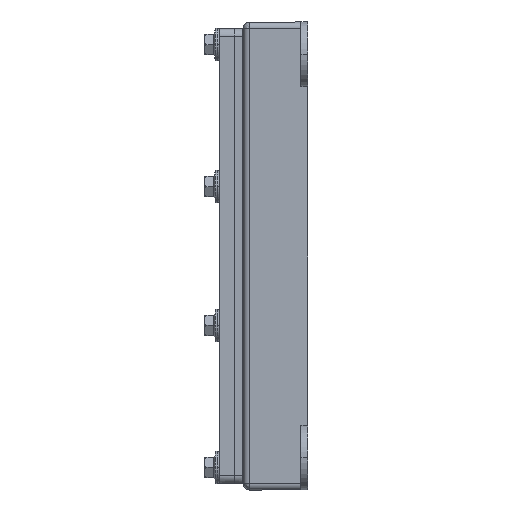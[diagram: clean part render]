
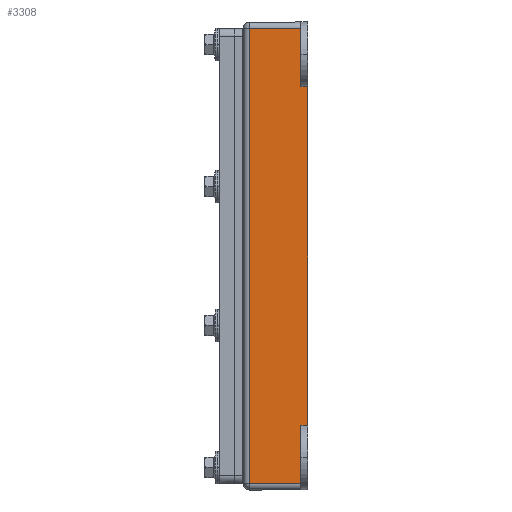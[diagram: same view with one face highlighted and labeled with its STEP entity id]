
A CAD part, left-side view. The second image highlights one B-rep face of the part: STEP entity #3308.
In plain terms, the highlighted planar face has unit normal (-1, 0, 0).
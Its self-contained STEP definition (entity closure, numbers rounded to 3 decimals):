
#1342 = CARTESIAN_POINT ( 'NONE',  ( 12.7, -97.078, 84.378 ) ) ;
#1349 = DIRECTION ( 'NONE',  ( 0., 0., -1. ) ) ;
#1350 = VECTOR ( 'NONE', #1349, 1000. ) ;
#1351 = CARTESIAN_POINT ( 'NONE',  ( 12.7, -97.078, 17.703 ) ) ;
#1356 = LINE ( 'NONE', #1351, #1350 ) ;
#1573 = DIRECTION ( 'NONE',  ( 0., 0., 1. ) ) ;
#1574 = VECTOR ( 'NONE', #1573, 1000. ) ;
#1590 = CARTESIAN_POINT ( 'NONE',  ( 12.7, -99.745, 17.703 ) ) ;
#1596 = LINE ( 'NONE', #1590, #1574 ) ;
#1607 = DIRECTION ( 'NONE',  ( 0., 1., 0. ) ) ;
#1608 = VECTOR ( 'NONE', #1607, 1000. ) ;
#1616 = CARTESIAN_POINT ( 'NONE',  ( 12.7, -98.411, -48.972 ) ) ;
#1617 = LINE ( 'NONE', #1616, #1608 ) ;
#1675 = CARTESIAN_POINT ( 'NONE',  ( 12.7, -99.745, -48.972 ) ) ;
#1821 = CARTESIAN_POINT ( 'NONE',  ( 12.7, -98.411, 17.703 ) ) ;
#1822 = AXIS2_PLACEMENT_3D ( 'NONE', #1821, #1883, #1882 ) ;
#1847 = FACE_OUTER_BOUND ( 'NONE', #3191, .T. ) ;
#1854 = PLANE ( 'NONE',  #1822 ) ;
#1882 = DIRECTION ( 'NONE',  ( 0., -1., 0. ) ) ;
#1883 = DIRECTION ( 'NONE',  ( 1., 0., 0. ) ) ;
#2773 = CARTESIAN_POINT ( 'NONE',  ( 12.7, -99.745, 84.378 ) ) ;
#3031 = VERTEX_POINT ( 'NONE', #1342 ) ;
#3037 = EDGE_CURVE ( 'NONE', #12092, #3031, #1356, .T. ) ;
#3158 = ORIENTED_EDGE ( 'NONE', *, *, #12253, .F. ) ;
#3159 = EDGE_CURVE ( 'NONE', #3213, #3769, #1596, .T. ) ;
#3161 = ORIENTED_EDGE ( 'NONE', *, *, #3175, .F. ) ;
#3168 = ORIENTED_EDGE ( 'NONE', *, *, #10601, .F. ) ;
#3175 = EDGE_CURVE ( 'NONE', #3213, #10549, #1617, .T. ) ;
#3191 = EDGE_LOOP ( 'NONE', ( #3200, #3306, #3310, #3158, #3168, #3161, #3311, #10621 ) ) ;
#3200 = ORIENTED_EDGE ( 'NONE', *, *, #3037, .F. ) ;
#3213 = VERTEX_POINT ( 'NONE', #1675 ) ;
#3306 = ORIENTED_EDGE ( 'NONE', *, *, #12080, .F. ) ;
#3308 = ADVANCED_FACE ( 'NONE', ( #1847 ), #1854, .F. ) ;
#3310 = ORIENTED_EDGE ( 'NONE', *, *, #12262, .F. ) ;
#3311 = ORIENTED_EDGE ( 'NONE', *, *, #3159, .T. ) ;
#3769 = VERTEX_POINT ( 'NONE', #2773 ) ;
#10549 = VERTEX_POINT ( 'NONE', #13201 ) ;
#10560 = EDGE_CURVE ( 'NONE', #3769, #3031, #13196, .T. ) ;
#10601 = EDGE_CURVE ( 'NONE', #10549, #12257, #13369, .T. ) ;
#10621 = ORIENTED_EDGE ( 'NONE', *, *, #10560, .T. ) ;
#12080 = EDGE_CURVE ( 'NONE', #12500, #12092, #15871, .T. ) ;
#12092 = VERTEX_POINT ( 'NONE', #15915 ) ;
#12253 = EDGE_CURVE ( 'NONE', #12257, #12396, #16488, .T. ) ;
#12257 = VERTEX_POINT ( 'NONE', #16528 ) ;
#12262 = EDGE_CURVE ( 'NONE', #12396, #12500, #16552, .T. ) ;
#12396 = VERTEX_POINT ( 'NONE', #16960 ) ;
#12500 = VERTEX_POINT ( 'NONE', #17356 ) ;
#13195 = CARTESIAN_POINT ( 'NONE',  ( 12.7, -98.411, 84.378 ) ) ;
#13196 = LINE ( 'NONE', #13195, #13251 ) ;
#13201 = CARTESIAN_POINT ( 'NONE',  ( 12.7, -97.078, -48.972 ) ) ;
#13250 = DIRECTION ( 'NONE',  ( 0., 1., 0. ) ) ;
#13251 = VECTOR ( 'NONE', #13250, 1000. ) ;
#13365 = DIRECTION ( 'NONE',  ( 0., 0., -1. ) ) ;
#13366 = VECTOR ( 'NONE', #13365, 1000. ) ;
#13367 = CARTESIAN_POINT ( 'NONE',  ( 12.7, -97.078, 17.703 ) ) ;
#13369 = LINE ( 'NONE', #13367, #13366 ) ;
#15871 = LINE ( 'NONE', #15901, #15900 ) ;
#15899 = DIRECTION ( 'NONE',  ( 0., -1., 0. ) ) ;
#15900 = VECTOR ( 'NONE', #15899, 1000. ) ;
#15901 = CARTESIAN_POINT ( 'NONE',  ( 12.7, -98.411, 107.238 ) ) ;
#15915 = CARTESIAN_POINT ( 'NONE',  ( 12.7, -97.078, 107.238 ) ) ;
#16476 = CARTESIAN_POINT ( 'NONE',  ( 12.7, -98.411, -71.832 ) ) ;
#16488 = LINE ( 'NONE', #16476, #16505 ) ;
#16504 = DIRECTION ( 'NONE',  ( 0., 1., 0. ) ) ;
#16505 = VECTOR ( 'NONE', #16504, 1000. ) ;
#16528 = CARTESIAN_POINT ( 'NONE',  ( 12.7, -97.078, -71.832 ) ) ;
#16549 = DIRECTION ( 'NONE',  ( 0., 0., 1. ) ) ;
#16550 = VECTOR ( 'NONE', #16549, 1000. ) ;
#16551 = CARTESIAN_POINT ( 'NONE',  ( 12.7, -76.885, 17.703 ) ) ;
#16552 = LINE ( 'NONE', #16551, #16550 ) ;
#16960 = CARTESIAN_POINT ( 'NONE',  ( 12.7, -76.885, -71.832 ) ) ;
#17356 = CARTESIAN_POINT ( 'NONE',  ( 12.7, -76.885, 107.238 ) ) ;
